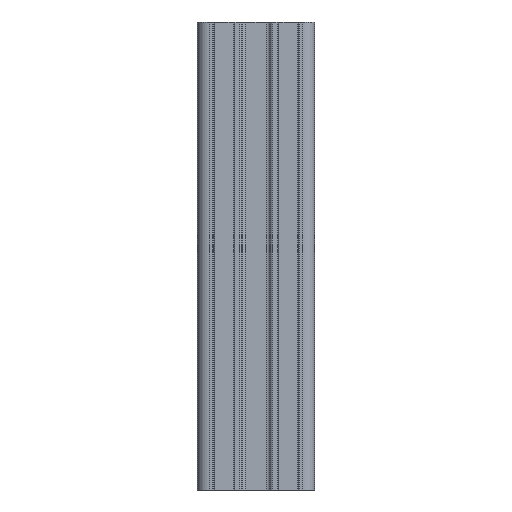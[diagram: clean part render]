
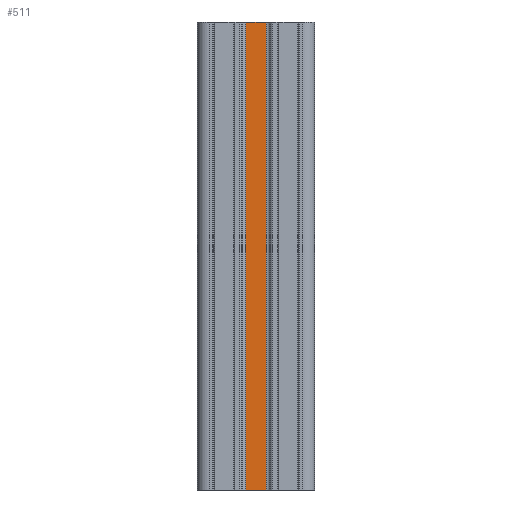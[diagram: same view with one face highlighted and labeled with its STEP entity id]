
A CAD part, left-side view. The second image highlights one B-rep face of the part: STEP entity #511.
In plain terms, the highlighted planar face has unit normal (-1, 0, 0).
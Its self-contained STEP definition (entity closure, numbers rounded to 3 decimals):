
#116 = LINE ( 'NONE', #2245, #2553 ) ;
#194 = ORIENTED_EDGE ( 'NONE', *, *, #3065, .T. ) ;
#209 = CARTESIAN_POINT ( 'NONE',  ( -4.5, -2.158, 0. ) ) ;
#393 = DIRECTION ( 'NONE',  ( 0., 1., 0. ) ) ;
#425 = VERTEX_POINT ( 'NONE', #209 ) ;
#511 = ADVANCED_FACE ( 'NONE', ( #642 ), #3424, .F. ) ;
#521 = EDGE_LOOP ( 'NONE', ( #2840, #3777, #2837, #194 ) ) ;
#549 = VECTOR ( 'NONE', #1914, 1000. ) ;
#642 = FACE_OUTER_BOUND ( 'NONE', #521, .T. ) ;
#794 = LINE ( 'NONE', #2070, #1975 ) ;
#882 = CARTESIAN_POINT ( 'NONE',  ( -4.5, 2.158, 0. ) ) ;
#1260 = EDGE_CURVE ( 'NONE', #2330, #4031, #2762, .T. ) ;
#1335 = EDGE_CURVE ( 'NONE', #425, #2330, #116, .T. ) ;
#1425 = EDGE_CURVE ( 'NONE', #1480, #4031, #794, .T. ) ;
#1441 = AXIS2_PLACEMENT_3D ( 'NONE', #3070, #2075, #3701 ) ;
#1480 = VERTEX_POINT ( 'NONE', #2309 ) ;
#1511 = DIRECTION ( 'NONE',  ( 0., 0., -1. ) ) ;
#1914 = DIRECTION ( 'NONE',  ( 0., 0., 1. ) ) ;
#1975 = VECTOR ( 'NONE', #393, 1000. ) ;
#2070 = CARTESIAN_POINT ( 'NONE',  ( -4.5, 2.572, -100. ) ) ;
#2075 = DIRECTION ( 'NONE',  ( 1., 0., 0. ) ) ;
#2245 = CARTESIAN_POINT ( 'NONE',  ( -4.5, 2.572, 0. ) ) ;
#2309 = CARTESIAN_POINT ( 'NONE',  ( -4.5, -2.158, -100. ) ) ;
#2330 = VERTEX_POINT ( 'NONE', #882 ) ;
#2553 = VECTOR ( 'NONE', #2619, 1000. ) ;
#2619 = DIRECTION ( 'NONE',  ( 0., 1., 0. ) ) ;
#2762 = LINE ( 'NONE', #2823, #3890 ) ;
#2823 = CARTESIAN_POINT ( 'NONE',  ( -4.5, 2.158, -100. ) ) ;
#2837 = ORIENTED_EDGE ( 'NONE', *, *, #1425, .F. ) ;
#2840 = ORIENTED_EDGE ( 'NONE', *, *, #1335, .T. ) ;
#3065 = EDGE_CURVE ( 'NONE', #1480, #425, #3388, .T. ) ;
#3070 = CARTESIAN_POINT ( 'NONE',  ( -4.5, 2.572, -100. ) ) ;
#3388 = LINE ( 'NONE', #3907, #549 ) ;
#3424 = PLANE ( 'NONE',  #1441 ) ;
#3701 = DIRECTION ( 'NONE',  ( 0., 1., 0. ) ) ;
#3777 = ORIENTED_EDGE ( 'NONE', *, *, #1260, .T. ) ;
#3890 = VECTOR ( 'NONE', #1511, 1000. ) ;
#3905 = CARTESIAN_POINT ( 'NONE',  ( -4.5, 2.158, -100. ) ) ;
#3907 = CARTESIAN_POINT ( 'NONE',  ( -4.5, -2.158, 0. ) ) ;
#4031 = VERTEX_POINT ( 'NONE', #3905 ) ;
